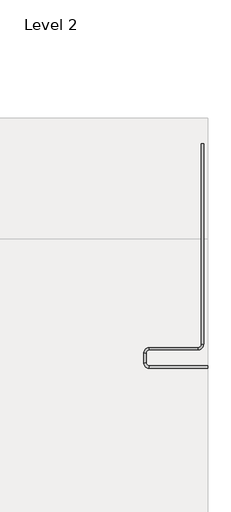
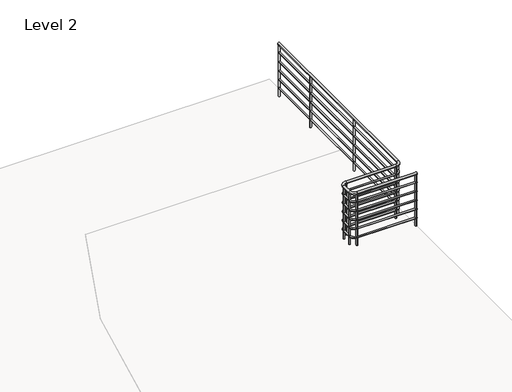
# One storey, part 5 of 14: 1 railing.
"""IFC4 building model written with IfcOpenShell, lengths in millimetres."""

from ifc_helpers import new_model, si_unit, point, frame, frame_2d, origin, place, context, project, spatial, circle_curve, ellipse_curve, trimmed, segment, composite_curve, outline, extrude, element, save
from ifc_brep_helpers import plane_surface, cylinder_surface, revolved_surface, advanced_brep

model = new_model("IFC4")

# Units and contexts
model_context = context("Model", 3, world=origin())
ifc_project = project(units=[si_unit("LENGTHUNIT", "METRE", prefix="MILLI")], contexts=[model_context])

# Site, building, storey
site = spatial("IfcSite", under=ifc_project)
building = spatial("IfcBuilding", under=site)
storey = spatial("IfcBuildingStorey", under=building, Name="Level 2", Elevation=3657.6)

# Railing
placement = place(None, origin())
element("IfcRailing", 1, ObjectType="Handrail - Pipe", at=placement, inside=storey, context=model_context, shape_type="SolidModel", body=[
    advanced_brep(
    [(18023.4049721, 512.0273319, 4552.95), (18023.4049721, 473.9273319, 4552.95), (17058.2049721, 512.0273319, 4552.95), (17058.2049721, 473.9273319, 4552.95), (16962.9549721, 569.1773319, 4552.95), (17001.0549721, 569.1773319, 4552.95), (17001.0549721, 721.5773319, 4552.95), (16962.9549721, 721.5773319, 4552.95), (17058.2049721, 816.8273319, 4552.95), (17058.2049721, 778.7273319, 4552.95), (17861.7339721, 778.7273319, 4552.95), (17861.7339721, 816.8273319, 4552.95), (17956.9839721, 4202.9648319, 4552.95), (17918.8839721, 4202.9648319, 4552.95), (17918.8839721, 873.9773319, 4552.95), (17956.9839721, 873.9773319, 4552.95)],
    [
        (0, 1, circle_curve(frame((18023.4049721, 492.9773319, 4552.95), z_axis=(1.0, 0.0, 0.0), x_axis=(0.0, -1.0, 0.0)), 19.05)),
        (1, 0, circle_curve(frame((18023.4049721, 492.9773319, 4552.95), z_axis=(1.0, 0.0, 0.0), x_axis=(0.0, -1.0, 0.0)), 19.05)),
        (0, 2),
        (2, 3, circle_curve(frame((17058.2049721, 492.9773319, 4552.95), z_axis=(1.0, 0.0, 0.0), x_axis=(0.0, -1.0, 0.0)), 19.05)),
        (3, 1),
        (3, 2, circle_curve(frame((17058.2049721, 492.9773319, 4552.95), z_axis=(1.0, 0.0, 0.0), x_axis=(0.0, -1.0, 0.0)), 19.05)),
        (4, 5, circle_curve(frame((16982.0049721, 569.1773319, 4552.95), z_axis=(0.0, 1.0, 0.0), x_axis=(-1.0, 0.0, 0.0)), 19.05)),
        (5, 6),
        (6, 7, circle_curve(frame((16982.0049721, 721.5773319, 4552.95), z_axis=(0.0, -1.0, 0.0), x_axis=(-1.0, 0.0, 0.0)), 19.05)),
        (7, 4),
        (5, 4, circle_curve(frame((16982.0049721, 569.1773319, 4552.95), z_axis=(0.0, 1.0, 0.0), x_axis=(-1.0, 0.0, 0.0)), 19.05)),
        (7, 6, circle_curve(frame((16982.0049721, 721.5773319, 4552.95), z_axis=(0.0, -1.0, 0.0), x_axis=(-1.0, 0.0, 0.0)), 19.05)),
        (8, 9, circle_curve(frame((17058.2049721, 797.7773319, 4552.95), z_axis=(1.0, 0.0, 0.0), x_axis=(0.0, 1.0, 0.0)), 19.05)),
        (9, 10),
        (10, 11, circle_curve(frame((17861.7339721, 797.7773319, 4552.95), z_axis=(-1.0, 0.0, 0.0), x_axis=(0.0, 1.0, 0.0)), 19.05)),
        (11, 8),
        (9, 8, circle_curve(frame((17058.2049721, 797.7773319, 4552.95), z_axis=(1.0, 0.0, 0.0), x_axis=(0.0, 1.0, 0.0)), 19.05)),
        (11, 10, circle_curve(frame((17861.7339721, 797.7773319, 4552.95), z_axis=(-1.0, 0.0, 0.0), x_axis=(0.0, 1.0, 0.0)), 19.05)),
        (12, 13, circle_curve(frame((17937.9339721, 4202.9648319, 4552.95), z_axis=(0.0, 1.0, 0.0), x_axis=(-1.0, 0.0, 0.0)), 19.05)),
        (13, 12, circle_curve(frame((17937.9339721, 4202.9648319, 4552.95), z_axis=(0.0, 1.0, 0.0), x_axis=(-1.0, 0.0, 0.0)), 19.05)),
        (14, 15, circle_curve(frame((17937.9339721, 873.9773319, 4552.95), z_axis=(0.0, 1.0, 0.0), x_axis=(-1.0, 0.0, 0.0)), 19.05)),
        (15, 12),
        (13, 14),
        (15, 14, circle_curve(frame((17937.9339721, 873.9773319, 4552.95), z_axis=(0.0, 1.0, 0.0), x_axis=(-1.0, 0.0, 0.0)), 19.05)),
        (4, 3, circle_curve(frame((17058.2049721, 569.1773319, 4552.95), z_axis=(0.0, 0.0, 1.0), x_axis=(0.0, -1.0, 0.0)), 95.25)),
        (2, 5, circle_curve(frame((17058.2049721, 569.1773319, 4552.95), z_axis=(0.0, 0.0, -1.0), x_axis=(0.0, -1.0, 0.0)), 57.15)),
        (8, 7, circle_curve(frame((17058.2049721, 721.5773319, 4552.95), z_axis=(0.0, 0.0, 1.0), x_axis=(-1.0, 0.0, 0.0)), 95.25)),
        (6, 9, circle_curve(frame((17058.2049721, 721.5773319, 4552.95), z_axis=(0.0, 0.0, -1.0), x_axis=(-1.0, 0.0, 0.0)), 57.15)),
        (14, 11, circle_curve(frame((17861.7339721, 873.9773319, 4552.95), z_axis=(0.0, 0.0, -1.0), x_axis=(0.0, -1.0, 0.0)), 57.15)),
        (10, 15, circle_curve(frame((17861.7339721, 873.9773319, 4552.95), z_axis=(0.0, 0.0, 1.0), x_axis=(0.0, -1.0, 0.0)), 95.25)),
    ],
    [
        plane_surface(frame((18023.4049721, 492.9773319, 4572.0), z_axis=(1.0, 0.0, 0.0), x_axis=(0.0, -1.0, 0.0))),
        cylinder_surface(frame((18023.4049721, 492.9773319, 4552.95), z_axis=(1.0, 0.0, 0.0), x_axis=(0.0, -1.0, 0.0)), 19.05),
        cylinder_surface(frame((16982.0049721, 569.1773319, 4552.95), z_axis=(0.0, -1.0, 0.0), x_axis=(-1.0, 0.0, 0.0)), 19.05),
        cylinder_surface(frame((17058.2049721, 797.7773319, 4552.95), z_axis=(-1.0, 0.0, 0.0), x_axis=(0.0, 1.0, 0.0)), 19.05),
        plane_surface(frame((17937.9339721, 4202.9648319, 4572.0), z_axis=(0.0, 1.0, 0.0), x_axis=(0.0, 0.0, 1.0))),
        cylinder_surface(frame((17937.9339721, 873.9773319, 4552.95), z_axis=(0.0, -1.0, 0.0), x_axis=(-1.0, 0.0, 0.0)), 19.05),
        revolved_surface(trimmed(ellipse_curve(frame((17058.2049721, 492.9773319, 4552.95), z_axis=(1.0, 0.0, 0.0), x_axis=(0.0, -1.0, 0.0)), 19.05, 19.05), [point((17058.2049721, 512.0273319, 4552.95))], [point((17058.2049721, 473.9273319, 4552.95))], True, "CARTESIAN"), (17058.2049721, 569.1773319, 4572.0), (0.0, 0.0, -1.0)),
        revolved_surface(trimmed(ellipse_curve(frame((17058.2049721, 492.9773319, 4552.95), z_axis=(1.0, 0.0, 0.0), x_axis=(0.0, -1.0, 0.0)), 19.05, 19.05), [point((17058.2049721, 473.9273319, 4552.95))], [point((17058.2049721, 512.0273319, 4552.95))], True, "CARTESIAN"), (17058.2049721, 569.1773319, 4572.0), (0.0, 0.0, -1.0)),
        revolved_surface(trimmed(ellipse_curve(frame((16982.0049721, 721.5773319, 4552.95), z_axis=(0.0, -1.0, 0.0), x_axis=(-1.0, 0.0, 0.0)), 19.05, 19.05), [point((17001.0549721, 721.5773319, 4552.95))], [point((16962.9549721, 721.5773319, 4552.95))], True, "CARTESIAN"), (17058.2049721, 721.5773319, 4572.0), (0.0, 0.0, -1.0)),
        revolved_surface(trimmed(ellipse_curve(frame((16982.0049721, 721.5773319, 4552.95), z_axis=(0.0, -1.0, 0.0), x_axis=(-1.0, 0.0, 0.0)), 19.05, 19.05), [point((16962.9549721, 721.5773319, 4552.95))], [point((17001.0549721, 721.5773319, 4552.95))], True, "CARTESIAN"), (17058.2049721, 721.5773319, 4572.0), (0.0, 0.0, -1.0)),
        revolved_surface(trimmed(ellipse_curve(frame((17861.7339721, 797.7773319, 4552.95), z_axis=(-1.0, 0.0, 0.0), x_axis=(0.0, 1.0, 0.0)), 19.05, 19.05), [point((17861.7339721, 778.7273319, 4552.95))], [point((17861.7339721, 816.8273319, 4552.95))], True, "CARTESIAN"), (17861.7339721, 873.9773319, 4572.0), (0.0, 0.0, 1.0)),
        revolved_surface(trimmed(ellipse_curve(frame((17861.7339721, 797.7773319, 4552.95), z_axis=(-1.0, 0.0, 0.0), x_axis=(0.0, 1.0, 0.0)), 19.05, 19.05), [point((17861.7339721, 816.8273319, 4552.95))], [point((17861.7339721, 778.7273319, 4552.95))], True, "CARTESIAN"), (17861.7339721, 873.9773319, 4572.0), (0.0, 0.0, 1.0)),
    ],
    [
        (0, [[1, 2]]),
        (1, [[-1, 3, 4, 5]]),
        (1, [[-2, -5, 6, -3]]),
        (2, [[7, 8, 9, 10]]),
        (2, [[11, -10, 12, -8]]),
        (3, [[13, 14, 15, 16]]),
        (3, [[17, -16, 18, -14]]),
        (4, [[19, 20]]),
        (5, [[21, 22, -20, 23]]),
        (5, [[24, -23, -19, -22]]),
        (6, [[25, -4, 26, -7]]),
        (7, [[-26, -6, -25, -11]]),
        (8, [[27, -9, 28, -13]]),
        (9, [[-28, -12, -27, -17]]),
        (10, [[29, -15, 30, -21]]),
        (11, [[-30, -18, -29, -24]]),
    ],
),
    advanced_brep(
    [(18023.4049721, 505.6773319, 4406.9), (18023.4049721, 480.2773319, 4406.9), (17058.2049721, 480.2773319, 4406.9), (17058.2049721, 505.6773319, 4406.9), (16994.7049721, 569.1773319, 4406.9), (16969.3049721, 569.1773319, 4406.9), (16969.3049721, 721.5773319, 4406.9), (16994.7049721, 721.5773319, 4406.9), (17058.2049721, 785.0773319, 4406.9), (17058.2049721, 810.4773319, 4406.9), (17861.7339721, 810.4773319, 4406.9), (17861.7339721, 785.0773319, 4406.9), (17950.6339721, 4202.9648319, 4406.9), (17925.2339721, 4202.9648319, 4406.9), (17950.6339721, 873.9773319, 4406.9), (17925.2339721, 873.9773319, 4406.9)],
    [
        (0, 1, circle_curve(frame((18023.4049721, 492.9773319, 4406.9), z_axis=(1.0, 0.0, 0.0), x_axis=(0.0, -1.0, 0.0)), 12.7)),
        (1, 0, circle_curve(frame((18023.4049721, 492.9773319, 4406.9), z_axis=(1.0, 0.0, 0.0), x_axis=(0.0, -1.0, 0.0)), 12.7)),
        (1, 2),
        (2, 3, circle_curve(frame((17058.2049721, 492.9773319, 4406.9), z_axis=(1.0, 0.0, 0.0), x_axis=(0.0, -1.0, 0.0)), 12.7)),
        (3, 0),
        (3, 2, circle_curve(frame((17058.2049721, 492.9773319, 4406.9), z_axis=(1.0, 0.0, 0.0), x_axis=(0.0, -1.0, 0.0)), 12.7)),
        (4, 5, circle_curve(frame((16982.0049721, 569.1773319, 4406.9), z_axis=(0.0, 1.0, 0.0), x_axis=(-1.0, 0.0, 0.0)), 12.7)),
        (5, 6),
        (6, 7, circle_curve(frame((16982.0049721, 721.5773319, 4406.9), z_axis=(0.0, -1.0, 0.0), x_axis=(-1.0, 0.0, 0.0)), 12.7)),
        (7, 4),
        (5, 4, circle_curve(frame((16982.0049721, 569.1773319, 4406.9), z_axis=(0.0, 1.0, 0.0), x_axis=(-1.0, 0.0, 0.0)), 12.7)),
        (7, 6, circle_curve(frame((16982.0049721, 721.5773319, 4406.9), z_axis=(0.0, -1.0, 0.0), x_axis=(-1.0, 0.0, 0.0)), 12.7)),
        (8, 9, circle_curve(frame((17058.2049721, 797.7773319, 4406.9), z_axis=(1.0, 0.0, 0.0), x_axis=(0.0, 1.0, 0.0)), 12.7)),
        (9, 10),
        (10, 11, circle_curve(frame((17861.7339721, 797.7773319, 4406.9), z_axis=(-1.0, 0.0, 0.0), x_axis=(0.0, 1.0, 0.0)), 12.7)),
        (11, 8),
        (9, 8, circle_curve(frame((17058.2049721, 797.7773319, 4406.9), z_axis=(1.0, 0.0, 0.0), x_axis=(0.0, 1.0, 0.0)), 12.7)),
        (11, 10, circle_curve(frame((17861.7339721, 797.7773319, 4406.9), z_axis=(-1.0, 0.0, 0.0), x_axis=(0.0, 1.0, 0.0)), 12.7)),
        (12, 13, circle_curve(frame((17937.9339721, 4202.9648319, 4406.9), z_axis=(0.0, 1.0, 0.0), x_axis=(-1.0, 0.0, 0.0)), 12.7)),
        (13, 12, circle_curve(frame((17937.9339721, 4202.9648319, 4406.9), z_axis=(0.0, 1.0, 0.0), x_axis=(-1.0, 0.0, 0.0)), 12.7)),
        (14, 15, circle_curve(frame((17937.9339721, 873.9773319, 4406.9), z_axis=(0.0, 1.0, 0.0), x_axis=(-1.0, 0.0, 0.0)), 12.7)),
        (15, 13),
        (12, 14),
        (15, 14, circle_curve(frame((17937.9339721, 873.9773319, 4406.9), z_axis=(0.0, 1.0, 0.0), x_axis=(-1.0, 0.0, 0.0)), 12.7)),
        (4, 3, circle_curve(frame((17058.2049721, 569.1773319, 4406.9), z_axis=(0.0, 0.0, 1.0), x_axis=(0.0, -1.0, 0.0)), 63.5)),
        (2, 5, circle_curve(frame((17058.2049721, 569.1773319, 4406.9), z_axis=(0.0, 0.0, -1.0), x_axis=(0.0, -1.0, 0.0)), 88.9)),
        (8, 7, circle_curve(frame((17058.2049721, 721.5773319, 4406.9), z_axis=(0.0, 0.0, 1.0), x_axis=(-1.0, 0.0, 0.0)), 63.5)),
        (6, 9, circle_curve(frame((17058.2049721, 721.5773319, 4406.9), z_axis=(0.0, 0.0, -1.0), x_axis=(-1.0, 0.0, 0.0)), 88.9)),
        (14, 11, circle_curve(frame((17861.7339721, 873.9773319, 4406.9), z_axis=(0.0, 0.0, -1.0), x_axis=(0.0, -1.0, 0.0)), 88.9)),
        (10, 15, circle_curve(frame((17861.7339721, 873.9773319, 4406.9), z_axis=(0.0, 0.0, 1.0), x_axis=(0.0, -1.0, 0.0)), 63.5)),
    ],
    [
        plane_surface(frame((18023.4049721, 492.9773319, 4419.6), z_axis=(1.0, 0.0, 0.0), x_axis=(0.0, -1.0, 0.0))),
        cylinder_surface(frame((18023.4049721, 492.9773319, 4406.9), z_axis=(1.0, 0.0, 0.0), x_axis=(0.0, -1.0, 0.0)), 12.7),
        cylinder_surface(frame((16982.0049721, 569.1773319, 4406.9), z_axis=(0.0, -1.0, 0.0), x_axis=(-1.0, 0.0, 0.0)), 12.7),
        cylinder_surface(frame((17058.2049721, 797.7773319, 4406.9), z_axis=(-1.0, 0.0, 0.0), x_axis=(0.0, 1.0, 0.0)), 12.7),
        plane_surface(frame((17937.9339721, 4202.9648319, 4419.6), z_axis=(0.0, 1.0, 0.0), x_axis=(0.0, 0.0, 1.0))),
        cylinder_surface(frame((17937.9339721, 873.9773319, 4406.9), z_axis=(0.0, -1.0, 0.0), x_axis=(-1.0, 0.0, 0.0)), 12.7),
        revolved_surface(trimmed(ellipse_curve(frame((17058.2049721, 492.9773319, 4406.9), z_axis=(1.0, 0.0, 0.0), x_axis=(0.0, -1.0, 0.0)), 12.7, 12.7), [point((17058.2049721, 480.2773319, 4406.9))], [point((17058.2049721, 505.6773319, 4406.9))], True, "CARTESIAN"), (17058.2049721, 569.1773319, 4419.6), (0.0, 0.0, -1.0)),
        revolved_surface(trimmed(ellipse_curve(frame((17058.2049721, 492.9773319, 4406.9), z_axis=(1.0, 0.0, 0.0), x_axis=(0.0, -1.0, 0.0)), 12.7, 12.7), [point((17058.2049721, 505.6773319, 4406.9))], [point((17058.2049721, 480.2773319, 4406.9))], True, "CARTESIAN"), (17058.2049721, 569.1773319, 4419.6), (0.0, 0.0, -1.0)),
        revolved_surface(trimmed(ellipse_curve(frame((16982.0049721, 721.5773319, 4406.9), z_axis=(0.0, -1.0, 0.0), x_axis=(-1.0, 0.0, 0.0)), 12.7, 12.7), [point((16969.3049721, 721.5773319, 4406.9))], [point((16994.7049721, 721.5773319, 4406.9))], True, "CARTESIAN"), (17058.2049721, 721.5773319, 4419.6), (0.0, 0.0, -1.0)),
        revolved_surface(trimmed(ellipse_curve(frame((16982.0049721, 721.5773319, 4406.9), z_axis=(0.0, -1.0, 0.0), x_axis=(-1.0, 0.0, 0.0)), 12.7, 12.7), [point((16994.7049721, 721.5773319, 4406.9))], [point((16969.3049721, 721.5773319, 4406.9))], True, "CARTESIAN"), (17058.2049721, 721.5773319, 4419.6), (0.0, 0.0, -1.0)),
        revolved_surface(trimmed(ellipse_curve(frame((17861.7339721, 797.7773319, 4406.9), z_axis=(-1.0, 0.0, 0.0), x_axis=(0.0, 1.0, 0.0)), 12.7, 12.7), [point((17861.7339721, 810.4773319, 4406.9))], [point((17861.7339721, 785.0773319, 4406.9))], True, "CARTESIAN"), (17861.7339721, 873.9773319, 4419.6), (0.0, 0.0, 1.0)),
        revolved_surface(trimmed(ellipse_curve(frame((17861.7339721, 797.7773319, 4406.9), z_axis=(-1.0, 0.0, 0.0), x_axis=(0.0, 1.0, 0.0)), 12.7, 12.7), [point((17861.7339721, 785.0773319, 4406.9))], [point((17861.7339721, 810.4773319, 4406.9))], True, "CARTESIAN"), (17861.7339721, 873.9773319, 4419.6), (0.0, 0.0, 1.0)),
    ],
    [
        (0, [[1, 2]]),
        (1, [[-2, 3, 4, 5]]),
        (1, [[-1, -5, 6, -3]]),
        (2, [[7, 8, 9, 10]]),
        (2, [[11, -10, 12, -8]]),
        (3, [[13, 14, 15, 16]]),
        (3, [[17, -16, 18, -14]]),
        (4, [[19, 20]]),
        (5, [[21, 22, -19, 23]]),
        (5, [[24, -23, -20, -22]]),
        (6, [[25, -4, 26, -7]]),
        (7, [[-26, -6, -25, -11]]),
        (8, [[27, -9, 28, -13]]),
        (9, [[-28, -12, -27, -17]]),
        (10, [[29, -15, 30, -21]]),
        (11, [[-30, -18, -29, -24]]),
    ],
),
    advanced_brep(
    [(18023.4049721, 505.6773319, 4254.5), (18023.4049721, 480.2773319, 4254.5), (17058.2049721, 480.2773319, 4254.5), (17058.2049721, 505.6773319, 4254.5), (16994.7049721, 569.1773319, 4254.5), (16969.3049721, 569.1773319, 4254.5), (16969.3049721, 721.5773319, 4254.5), (16994.7049721, 721.5773319, 4254.5), (17058.2049721, 785.0773319, 4254.5), (17058.2049721, 810.4773319, 4254.5), (17861.7339721, 810.4773319, 4254.5), (17861.7339721, 785.0773319, 4254.5), (17950.6339721, 4202.9648319, 4254.5), (17925.2339721, 4202.9648319, 4254.5), (17950.6339721, 873.9773319, 4254.5), (17925.2339721, 873.9773319, 4254.5)],
    [
        (0, 1, circle_curve(frame((18023.4049721, 492.9773319, 4254.5), z_axis=(1.0, 0.0, 0.0), x_axis=(0.0, -1.0, 0.0)), 12.7)),
        (1, 0, circle_curve(frame((18023.4049721, 492.9773319, 4254.5), z_axis=(1.0, 0.0, 0.0), x_axis=(0.0, -1.0, 0.0)), 12.7)),
        (1, 2),
        (2, 3, circle_curve(frame((17058.2049721, 492.9773319, 4254.5), z_axis=(1.0, 0.0, 0.0), x_axis=(0.0, -1.0, 0.0)), 12.7)),
        (3, 0),
        (3, 2, circle_curve(frame((17058.2049721, 492.9773319, 4254.5), z_axis=(1.0, 0.0, 0.0), x_axis=(0.0, -1.0, 0.0)), 12.7)),
        (4, 5, circle_curve(frame((16982.0049721, 569.1773319, 4254.5), z_axis=(0.0, 1.0, 0.0), x_axis=(-1.0, 0.0, 0.0)), 12.7)),
        (5, 6),
        (6, 7, circle_curve(frame((16982.0049721, 721.5773319, 4254.5), z_axis=(0.0, -1.0, 0.0), x_axis=(-1.0, 0.0, 0.0)), 12.7)),
        (7, 4),
        (5, 4, circle_curve(frame((16982.0049721, 569.1773319, 4254.5), z_axis=(0.0, 1.0, 0.0), x_axis=(-1.0, 0.0, 0.0)), 12.7)),
        (7, 6, circle_curve(frame((16982.0049721, 721.5773319, 4254.5), z_axis=(0.0, -1.0, 0.0), x_axis=(-1.0, 0.0, 0.0)), 12.7)),
        (8, 9, circle_curve(frame((17058.2049721, 797.7773319, 4254.5), z_axis=(1.0, 0.0, 0.0), x_axis=(0.0, 1.0, 0.0)), 12.7)),
        (9, 10),
        (10, 11, circle_curve(frame((17861.7339721, 797.7773319, 4254.5), z_axis=(-1.0, 0.0, 0.0), x_axis=(0.0, 1.0, 0.0)), 12.7)),
        (11, 8),
        (9, 8, circle_curve(frame((17058.2049721, 797.7773319, 4254.5), z_axis=(1.0, 0.0, 0.0), x_axis=(0.0, 1.0, 0.0)), 12.7)),
        (11, 10, circle_curve(frame((17861.7339721, 797.7773319, 4254.5), z_axis=(-1.0, 0.0, 0.0), x_axis=(0.0, 1.0, 0.0)), 12.7)),
        (12, 13, circle_curve(frame((17937.9339721, 4202.9648319, 4254.5), z_axis=(0.0, 1.0, 0.0), x_axis=(-1.0, 0.0, 0.0)), 12.7)),
        (13, 12, circle_curve(frame((17937.9339721, 4202.9648319, 4254.5), z_axis=(0.0, 1.0, 0.0), x_axis=(-1.0, 0.0, 0.0)), 12.7)),
        (14, 15, circle_curve(frame((17937.9339721, 873.9773319, 4254.5), z_axis=(0.0, 1.0, 0.0), x_axis=(-1.0, 0.0, 0.0)), 12.7)),
        (15, 13),
        (12, 14),
        (15, 14, circle_curve(frame((17937.9339721, 873.9773319, 4254.5), z_axis=(0.0, 1.0, 0.0), x_axis=(-1.0, 0.0, 0.0)), 12.7)),
        (4, 3, circle_curve(frame((17058.2049721, 569.1773319, 4254.5), z_axis=(0.0, 0.0, 1.0), x_axis=(0.0, -1.0, 0.0)), 63.5)),
        (2, 5, circle_curve(frame((17058.2049721, 569.1773319, 4254.5), z_axis=(0.0, 0.0, -1.0), x_axis=(0.0, -1.0, 0.0)), 88.9)),
        (8, 7, circle_curve(frame((17058.2049721, 721.5773319, 4254.5), z_axis=(0.0, 0.0, 1.0), x_axis=(-1.0, 0.0, 0.0)), 63.5)),
        (6, 9, circle_curve(frame((17058.2049721, 721.5773319, 4254.5), z_axis=(0.0, 0.0, -1.0), x_axis=(-1.0, 0.0, 0.0)), 88.9)),
        (14, 11, circle_curve(frame((17861.7339721, 873.9773319, 4254.5), z_axis=(0.0, 0.0, -1.0), x_axis=(0.0, -1.0, 0.0)), 88.9)),
        (10, 15, circle_curve(frame((17861.7339721, 873.9773319, 4254.5), z_axis=(0.0, 0.0, 1.0), x_axis=(0.0, -1.0, 0.0)), 63.5)),
    ],
    [
        plane_surface(frame((18023.4049721, 492.9773319, 4267.2), z_axis=(1.0, 0.0, 0.0), x_axis=(0.0, -1.0, 0.0))),
        cylinder_surface(frame((18023.4049721, 492.9773319, 4254.5), z_axis=(1.0, 0.0, 0.0), x_axis=(0.0, -1.0, 0.0)), 12.7),
        cylinder_surface(frame((16982.0049721, 569.1773319, 4254.5), z_axis=(0.0, -1.0, 0.0), x_axis=(-1.0, 0.0, 0.0)), 12.7),
        cylinder_surface(frame((17058.2049721, 797.7773319, 4254.5), z_axis=(-1.0, 0.0, 0.0), x_axis=(0.0, 1.0, 0.0)), 12.7),
        plane_surface(frame((17937.9339721, 4202.9648319, 4267.2), z_axis=(0.0, 1.0, 0.0), x_axis=(0.0, 0.0, 1.0))),
        cylinder_surface(frame((17937.9339721, 873.9773319, 4254.5), z_axis=(0.0, -1.0, 0.0), x_axis=(-1.0, 0.0, 0.0)), 12.7),
        revolved_surface(trimmed(ellipse_curve(frame((17058.2049721, 492.9773319, 4254.5), z_axis=(1.0, 0.0, 0.0), x_axis=(0.0, -1.0, 0.0)), 12.7, 12.7), [point((17058.2049721, 480.2773319, 4254.5))], [point((17058.2049721, 505.6773319, 4254.5))], True, "CARTESIAN"), (17058.2049721, 569.1773319, 4267.2), (0.0, 0.0, -1.0)),
        revolved_surface(trimmed(ellipse_curve(frame((17058.2049721, 492.9773319, 4254.5), z_axis=(1.0, 0.0, 0.0), x_axis=(0.0, -1.0, 0.0)), 12.7, 12.7), [point((17058.2049721, 505.6773319, 4254.5))], [point((17058.2049721, 480.2773319, 4254.5))], True, "CARTESIAN"), (17058.2049721, 569.1773319, 4267.2), (0.0, 0.0, -1.0)),
        revolved_surface(trimmed(ellipse_curve(frame((16982.0049721, 721.5773319, 4254.5), z_axis=(0.0, -1.0, 0.0), x_axis=(-1.0, 0.0, 0.0)), 12.7, 12.7), [point((16969.3049721, 721.5773319, 4254.5))], [point((16994.7049721, 721.5773319, 4254.5))], True, "CARTESIAN"), (17058.2049721, 721.5773319, 4267.2), (0.0, 0.0, -1.0)),
        revolved_surface(trimmed(ellipse_curve(frame((16982.0049721, 721.5773319, 4254.5), z_axis=(0.0, -1.0, 0.0), x_axis=(-1.0, 0.0, 0.0)), 12.7, 12.7), [point((16994.7049721, 721.5773319, 4254.5))], [point((16969.3049721, 721.5773319, 4254.5))], True, "CARTESIAN"), (17058.2049721, 721.5773319, 4267.2), (0.0, 0.0, -1.0)),
        revolved_surface(trimmed(ellipse_curve(frame((17861.7339721, 797.7773319, 4254.5), z_axis=(-1.0, 0.0, 0.0), x_axis=(0.0, 1.0, 0.0)), 12.7, 12.7), [point((17861.7339721, 810.4773319, 4254.5))], [point((17861.7339721, 785.0773319, 4254.5))], True, "CARTESIAN"), (17861.7339721, 873.9773319, 4267.2), (0.0, 0.0, 1.0)),
        revolved_surface(trimmed(ellipse_curve(frame((17861.7339721, 797.7773319, 4254.5), z_axis=(-1.0, 0.0, 0.0), x_axis=(0.0, 1.0, 0.0)), 12.7, 12.7), [point((17861.7339721, 785.0773319, 4254.5))], [point((17861.7339721, 810.4773319, 4254.5))], True, "CARTESIAN"), (17861.7339721, 873.9773319, 4267.2), (0.0, 0.0, 1.0)),
    ],
    [
        (0, [[1, 2]]),
        (1, [[-2, 3, 4, 5]]),
        (1, [[-1, -5, 6, -3]]),
        (2, [[7, 8, 9, 10]]),
        (2, [[11, -10, 12, -8]]),
        (3, [[13, 14, 15, 16]]),
        (3, [[17, -16, 18, -14]]),
        (4, [[19, 20]]),
        (5, [[21, 22, -19, 23]]),
        (5, [[24, -23, -20, -22]]),
        (6, [[25, -4, 26, -7]]),
        (7, [[-26, -6, -25, -11]]),
        (8, [[27, -9, 28, -13]]),
        (9, [[-28, -12, -27, -17]]),
        (10, [[29, -15, 30, -21]]),
        (11, [[-30, -18, -29, -24]]),
    ],
),
    advanced_brep(
    [(18023.4049721, 505.6773319, 4102.1), (18023.4049721, 480.2773319, 4102.1), (17058.2049721, 480.2773319, 4102.1), (17058.2049721, 505.6773319, 4102.1), (16994.7049721, 569.1773319, 4102.1), (16969.3049721, 569.1773319, 4102.1), (16969.3049721, 721.5773319, 4102.1), (16994.7049721, 721.5773319, 4102.1), (17058.2049721, 785.0773319, 4102.1), (17058.2049721, 810.4773319, 4102.1), (17861.7339721, 810.4773319, 4102.1), (17861.7339721, 785.0773319, 4102.1), (17950.6339721, 4202.9648319, 4102.1), (17925.2339721, 4202.9648319, 4102.1), (17950.6339721, 873.9773319, 4102.1), (17925.2339721, 873.9773319, 4102.1)],
    [
        (0, 1, circle_curve(frame((18023.4049721, 492.9773319, 4102.1), z_axis=(1.0, 0.0, 0.0), x_axis=(0.0, -1.0, 0.0)), 12.7)),
        (1, 0, circle_curve(frame((18023.4049721, 492.9773319, 4102.1), z_axis=(1.0, 0.0, 0.0), x_axis=(0.0, -1.0, 0.0)), 12.7)),
        (1, 2),
        (2, 3, circle_curve(frame((17058.2049721, 492.9773319, 4102.1), z_axis=(1.0, 0.0, 0.0), x_axis=(0.0, -1.0, 0.0)), 12.7)),
        (3, 0),
        (3, 2, circle_curve(frame((17058.2049721, 492.9773319, 4102.1), z_axis=(1.0, 0.0, 0.0), x_axis=(0.0, -1.0, 0.0)), 12.7)),
        (4, 5, circle_curve(frame((16982.0049721, 569.1773319, 4102.1), z_axis=(0.0, 1.0, 0.0), x_axis=(-1.0, 0.0, 0.0)), 12.7)),
        (5, 6),
        (6, 7, circle_curve(frame((16982.0049721, 721.5773319, 4102.1), z_axis=(0.0, -1.0, 0.0), x_axis=(-1.0, 0.0, 0.0)), 12.7)),
        (7, 4),
        (5, 4, circle_curve(frame((16982.0049721, 569.1773319, 4102.1), z_axis=(0.0, 1.0, 0.0), x_axis=(-1.0, 0.0, 0.0)), 12.7)),
        (7, 6, circle_curve(frame((16982.0049721, 721.5773319, 4102.1), z_axis=(0.0, -1.0, 0.0), x_axis=(-1.0, 0.0, 0.0)), 12.7)),
        (8, 9, circle_curve(frame((17058.2049721, 797.7773319, 4102.1), z_axis=(1.0, 0.0, 0.0), x_axis=(0.0, 1.0, 0.0)), 12.7)),
        (9, 10),
        (10, 11, circle_curve(frame((17861.7339721, 797.7773319, 4102.1), z_axis=(-1.0, 0.0, 0.0), x_axis=(0.0, 1.0, 0.0)), 12.7)),
        (11, 8),
        (9, 8, circle_curve(frame((17058.2049721, 797.7773319, 4102.1), z_axis=(1.0, 0.0, 0.0), x_axis=(0.0, 1.0, 0.0)), 12.7)),
        (11, 10, circle_curve(frame((17861.7339721, 797.7773319, 4102.1), z_axis=(-1.0, 0.0, 0.0), x_axis=(0.0, 1.0, 0.0)), 12.7)),
        (12, 13, circle_curve(frame((17937.9339721, 4202.9648319, 4102.1), z_axis=(0.0, 1.0, 0.0), x_axis=(-1.0, 0.0, 0.0)), 12.7)),
        (13, 12, circle_curve(frame((17937.9339721, 4202.9648319, 4102.1), z_axis=(0.0, 1.0, 0.0), x_axis=(-1.0, 0.0, 0.0)), 12.7)),
        (14, 15, circle_curve(frame((17937.9339721, 873.9773319, 4102.1), z_axis=(0.0, 1.0, 0.0), x_axis=(-1.0, 0.0, 0.0)), 12.7)),
        (15, 13),
        (12, 14),
        (15, 14, circle_curve(frame((17937.9339721, 873.9773319, 4102.1), z_axis=(0.0, 1.0, 0.0), x_axis=(-1.0, 0.0, 0.0)), 12.7)),
        (4, 3, circle_curve(frame((17058.2049721, 569.1773319, 4102.1), z_axis=(0.0, 0.0, 1.0), x_axis=(0.0, -1.0, 0.0)), 63.5)),
        (2, 5, circle_curve(frame((17058.2049721, 569.1773319, 4102.1), z_axis=(0.0, 0.0, -1.0), x_axis=(0.0, -1.0, 0.0)), 88.9)),
        (8, 7, circle_curve(frame((17058.2049721, 721.5773319, 4102.1), z_axis=(0.0, 0.0, 1.0), x_axis=(-1.0, 0.0, 0.0)), 63.5)),
        (6, 9, circle_curve(frame((17058.2049721, 721.5773319, 4102.1), z_axis=(0.0, 0.0, -1.0), x_axis=(-1.0, 0.0, 0.0)), 88.9)),
        (14, 11, circle_curve(frame((17861.7339721, 873.9773319, 4102.1), z_axis=(0.0, 0.0, -1.0), x_axis=(0.0, -1.0, 0.0)), 88.9)),
        (10, 15, circle_curve(frame((17861.7339721, 873.9773319, 4102.1), z_axis=(0.0, 0.0, 1.0), x_axis=(0.0, -1.0, 0.0)), 63.5)),
    ],
    [
        plane_surface(frame((18023.4049721, 492.9773319, 4114.8), z_axis=(1.0, 0.0, 0.0), x_axis=(0.0, -1.0, 0.0))),
        cylinder_surface(frame((18023.4049721, 492.9773319, 4102.1), z_axis=(1.0, 0.0, 0.0), x_axis=(0.0, -1.0, 0.0)), 12.7),
        cylinder_surface(frame((16982.0049721, 569.1773319, 4102.1), z_axis=(0.0, -1.0, 0.0), x_axis=(-1.0, 0.0, 0.0)), 12.7),
        cylinder_surface(frame((17058.2049721, 797.7773319, 4102.1), z_axis=(-1.0, 0.0, 0.0), x_axis=(0.0, 1.0, 0.0)), 12.7),
        plane_surface(frame((17937.9339721, 4202.9648319, 4114.8), z_axis=(0.0, 1.0, 0.0), x_axis=(0.0, 0.0, 1.0))),
        cylinder_surface(frame((17937.9339721, 873.9773319, 4102.1), z_axis=(0.0, -1.0, 0.0), x_axis=(-1.0, 0.0, 0.0)), 12.7),
        revolved_surface(trimmed(ellipse_curve(frame((17058.2049721, 492.9773319, 4102.1), z_axis=(1.0, 0.0, 0.0), x_axis=(0.0, -1.0, 0.0)), 12.7, 12.7), [point((17058.2049721, 480.2773319, 4102.1))], [point((17058.2049721, 505.6773319, 4102.1))], True, "CARTESIAN"), (17058.2049721, 569.1773319, 4114.8), (0.0, 0.0, -1.0)),
        revolved_surface(trimmed(ellipse_curve(frame((17058.2049721, 492.9773319, 4102.1), z_axis=(1.0, 0.0, 0.0), x_axis=(0.0, -1.0, 0.0)), 12.7, 12.7), [point((17058.2049721, 505.6773319, 4102.1))], [point((17058.2049721, 480.2773319, 4102.1))], True, "CARTESIAN"), (17058.2049721, 569.1773319, 4114.8), (0.0, 0.0, -1.0)),
        revolved_surface(trimmed(ellipse_curve(frame((16982.0049721, 721.5773319, 4102.1), z_axis=(0.0, -1.0, 0.0), x_axis=(-1.0, 0.0, 0.0)), 12.7, 12.7), [point((16969.3049721, 721.5773319, 4102.1))], [point((16994.7049721, 721.5773319, 4102.1))], True, "CARTESIAN"), (17058.2049721, 721.5773319, 4114.8), (0.0, 0.0, -1.0)),
        revolved_surface(trimmed(ellipse_curve(frame((16982.0049721, 721.5773319, 4102.1), z_axis=(0.0, -1.0, 0.0), x_axis=(-1.0, 0.0, 0.0)), 12.7, 12.7), [point((16994.7049721, 721.5773319, 4102.1))], [point((16969.3049721, 721.5773319, 4102.1))], True, "CARTESIAN"), (17058.2049721, 721.5773319, 4114.8), (0.0, 0.0, -1.0)),
        revolved_surface(trimmed(ellipse_curve(frame((17861.7339721, 797.7773319, 4102.1), z_axis=(-1.0, 0.0, 0.0), x_axis=(0.0, 1.0, 0.0)), 12.7, 12.7), [point((17861.7339721, 810.4773319, 4102.1))], [point((17861.7339721, 785.0773319, 4102.1))], True, "CARTESIAN"), (17861.7339721, 873.9773319, 4114.8), (0.0, 0.0, 1.0)),
        revolved_surface(trimmed(ellipse_curve(frame((17861.7339721, 797.7773319, 4102.1), z_axis=(-1.0, 0.0, 0.0), x_axis=(0.0, 1.0, 0.0)), 12.7, 12.7), [point((17861.7339721, 785.0773319, 4102.1))], [point((17861.7339721, 810.4773319, 4102.1))], True, "CARTESIAN"), (17861.7339721, 873.9773319, 4114.8), (0.0, 0.0, 1.0)),
    ],
    [
        (0, [[1, 2]]),
        (1, [[-2, 3, 4, 5]]),
        (1, [[-1, -5, 6, -3]]),
        (2, [[7, 8, 9, 10]]),
        (2, [[11, -10, 12, -8]]),
        (3, [[13, 14, 15, 16]]),
        (3, [[17, -16, 18, -14]]),
        (4, [[19, 20]]),
        (5, [[21, 22, -19, 23]]),
        (5, [[24, -23, -20, -22]]),
        (6, [[25, -4, 26, -7]]),
        (7, [[-26, -6, -25, -11]]),
        (8, [[27, -9, 28, -13]]),
        (9, [[-28, -12, -27, -17]]),
        (10, [[29, -15, 30, -21]]),
        (11, [[-30, -18, -29, -24]]),
    ],
),
    advanced_brep(
    [(18023.4049721, 505.6773319, 3949.7), (18023.4049721, 480.2773319, 3949.7), (17058.2049721, 480.2773319, 3949.7), (17058.2049721, 505.6773319, 3949.7), (16994.7049721, 569.1773319, 3949.7), (16969.3049721, 569.1773319, 3949.7), (16969.3049721, 721.5773319, 3949.7), (16994.7049721, 721.5773319, 3949.7), (17058.2049721, 785.0773319, 3949.7), (17058.2049721, 810.4773319, 3949.7), (17861.7339721, 810.4773319, 3949.7), (17861.7339721, 785.0773319, 3949.7), (17950.6339721, 4202.9648319, 3949.7), (17925.2339721, 4202.9648319, 3949.7), (17950.6339721, 873.9773319, 3949.7), (17925.2339721, 873.9773319, 3949.7)],
    [
        (0, 1, circle_curve(frame((18023.4049721, 492.9773319, 3949.7), z_axis=(1.0, 0.0, 0.0), x_axis=(0.0, -1.0, 0.0)), 12.7)),
        (1, 0, circle_curve(frame((18023.4049721, 492.9773319, 3949.7), z_axis=(1.0, 0.0, 0.0), x_axis=(0.0, -1.0, 0.0)), 12.7)),
        (1, 2),
        (2, 3, circle_curve(frame((17058.2049721, 492.9773319, 3949.7), z_axis=(1.0, 0.0, 0.0), x_axis=(0.0, -1.0, 0.0)), 12.7)),
        (3, 0),
        (3, 2, circle_curve(frame((17058.2049721, 492.9773319, 3949.7), z_axis=(1.0, 0.0, 0.0), x_axis=(0.0, -1.0, 0.0)), 12.7)),
        (4, 5, circle_curve(frame((16982.0049721, 569.1773319, 3949.7), z_axis=(0.0, 1.0, 0.0), x_axis=(-1.0, 0.0, 0.0)), 12.7)),
        (5, 6),
        (6, 7, circle_curve(frame((16982.0049721, 721.5773319, 3949.7), z_axis=(0.0, -1.0, 0.0), x_axis=(-1.0, 0.0, 0.0)), 12.7)),
        (7, 4),
        (5, 4, circle_curve(frame((16982.0049721, 569.1773319, 3949.7), z_axis=(0.0, 1.0, 0.0), x_axis=(-1.0, 0.0, 0.0)), 12.7)),
        (7, 6, circle_curve(frame((16982.0049721, 721.5773319, 3949.7), z_axis=(0.0, -1.0, 0.0), x_axis=(-1.0, 0.0, 0.0)), 12.7)),
        (8, 9, circle_curve(frame((17058.2049721, 797.7773319, 3949.7), z_axis=(1.0, 0.0, 0.0), x_axis=(0.0, 1.0, 0.0)), 12.7)),
        (9, 10),
        (10, 11, circle_curve(frame((17861.7339721, 797.7773319, 3949.7), z_axis=(-1.0, 0.0, 0.0), x_axis=(0.0, 1.0, 0.0)), 12.7)),
        (11, 8),
        (9, 8, circle_curve(frame((17058.2049721, 797.7773319, 3949.7), z_axis=(1.0, 0.0, 0.0), x_axis=(0.0, 1.0, 0.0)), 12.7)),
        (11, 10, circle_curve(frame((17861.7339721, 797.7773319, 3949.7), z_axis=(-1.0, 0.0, 0.0), x_axis=(0.0, 1.0, 0.0)), 12.7)),
        (12, 13, circle_curve(frame((17937.9339721, 4202.9648319, 3949.7), z_axis=(0.0, 1.0, 0.0), x_axis=(-1.0, 0.0, 0.0)), 12.7)),
        (13, 12, circle_curve(frame((17937.9339721, 4202.9648319, 3949.7), z_axis=(0.0, 1.0, 0.0), x_axis=(-1.0, 0.0, 0.0)), 12.7)),
        (14, 15, circle_curve(frame((17937.9339721, 873.9773319, 3949.7), z_axis=(0.0, 1.0, 0.0), x_axis=(-1.0, 0.0, 0.0)), 12.7)),
        (15, 13),
        (12, 14),
        (15, 14, circle_curve(frame((17937.9339721, 873.9773319, 3949.7), z_axis=(0.0, 1.0, 0.0), x_axis=(-1.0, 0.0, 0.0)), 12.7)),
        (4, 3, circle_curve(frame((17058.2049721, 569.1773319, 3949.7), z_axis=(0.0, 0.0, 1.0), x_axis=(0.0, -1.0, 0.0)), 63.5)),
        (2, 5, circle_curve(frame((17058.2049721, 569.1773319, 3949.7), z_axis=(0.0, 0.0, -1.0), x_axis=(0.0, -1.0, 0.0)), 88.9)),
        (8, 7, circle_curve(frame((17058.2049721, 721.5773319, 3949.7), z_axis=(0.0, 0.0, 1.0), x_axis=(-1.0, 0.0, 0.0)), 63.5)),
        (6, 9, circle_curve(frame((17058.2049721, 721.5773319, 3949.7), z_axis=(0.0, 0.0, -1.0), x_axis=(-1.0, 0.0, 0.0)), 88.9)),
        (14, 11, circle_curve(frame((17861.7339721, 873.9773319, 3949.7), z_axis=(0.0, 0.0, -1.0), x_axis=(0.0, -1.0, 0.0)), 88.9)),
        (10, 15, circle_curve(frame((17861.7339721, 873.9773319, 3949.7), z_axis=(0.0, 0.0, 1.0), x_axis=(0.0, -1.0, 0.0)), 63.5)),
    ],
    [
        plane_surface(frame((18023.4049721, 492.9773319, 3962.4), z_axis=(1.0, 0.0, 0.0), x_axis=(0.0, -1.0, 0.0))),
        cylinder_surface(frame((18023.4049721, 492.9773319, 3949.7), z_axis=(1.0, 0.0, 0.0), x_axis=(0.0, -1.0, 0.0)), 12.7),
        cylinder_surface(frame((16982.0049721, 569.1773319, 3949.7), z_axis=(0.0, -1.0, 0.0), x_axis=(-1.0, 0.0, 0.0)), 12.7),
        cylinder_surface(frame((17058.2049721, 797.7773319, 3949.7), z_axis=(-1.0, 0.0, 0.0), x_axis=(0.0, 1.0, 0.0)), 12.7),
        plane_surface(frame((17937.9339721, 4202.9648319, 3962.4), z_axis=(0.0, 1.0, 0.0), x_axis=(0.0, 0.0, 1.0))),
        cylinder_surface(frame((17937.9339721, 873.9773319, 3949.7), z_axis=(0.0, -1.0, 0.0), x_axis=(-1.0, 0.0, 0.0)), 12.7),
        revolved_surface(trimmed(ellipse_curve(frame((17058.2049721, 492.9773319, 3949.7), z_axis=(1.0, 0.0, 0.0), x_axis=(0.0, -1.0, 0.0)), 12.7, 12.7), [point((17058.2049721, 480.2773319, 3949.7))], [point((17058.2049721, 505.6773319, 3949.7))], True, "CARTESIAN"), (17058.2049721, 569.1773319, 3962.4), (0.0, 0.0, -1.0)),
        revolved_surface(trimmed(ellipse_curve(frame((17058.2049721, 492.9773319, 3949.7), z_axis=(1.0, 0.0, 0.0), x_axis=(0.0, -1.0, 0.0)), 12.7, 12.7), [point((17058.2049721, 505.6773319, 3949.7))], [point((17058.2049721, 480.2773319, 3949.7))], True, "CARTESIAN"), (17058.2049721, 569.1773319, 3962.4), (0.0, 0.0, -1.0)),
        revolved_surface(trimmed(ellipse_curve(frame((16982.0049721, 721.5773319, 3949.7), z_axis=(0.0, -1.0, 0.0), x_axis=(-1.0, 0.0, 0.0)), 12.7, 12.7), [point((16969.3049721, 721.5773319, 3949.7))], [point((16994.7049721, 721.5773319, 3949.7))], True, "CARTESIAN"), (17058.2049721, 721.5773319, 3962.4), (0.0, 0.0, -1.0)),
        revolved_surface(trimmed(ellipse_curve(frame((16982.0049721, 721.5773319, 3949.7), z_axis=(0.0, -1.0, 0.0), x_axis=(-1.0, 0.0, 0.0)), 12.7, 12.7), [point((16994.7049721, 721.5773319, 3949.7))], [point((16969.3049721, 721.5773319, 3949.7))], True, "CARTESIAN"), (17058.2049721, 721.5773319, 3962.4), (0.0, 0.0, -1.0)),
        revolved_surface(trimmed(ellipse_curve(frame((17861.7339721, 797.7773319, 3949.7), z_axis=(-1.0, 0.0, 0.0), x_axis=(0.0, 1.0, 0.0)), 12.7, 12.7), [point((17861.7339721, 810.4773319, 3949.7))], [point((17861.7339721, 785.0773319, 3949.7))], True, "CARTESIAN"), (17861.7339721, 873.9773319, 3962.4), (0.0, 0.0, 1.0)),
        revolved_surface(trimmed(ellipse_curve(frame((17861.7339721, 797.7773319, 3949.7), z_axis=(-1.0, 0.0, 0.0), x_axis=(0.0, 1.0, 0.0)), 12.7, 12.7), [point((17861.7339721, 785.0773319, 3949.7))], [point((17861.7339721, 810.4773319, 3949.7))], True, "CARTESIAN"), (17861.7339721, 873.9773319, 3962.4), (0.0, 0.0, 1.0)),
    ],
    [
        (0, [[1, 2]]),
        (1, [[-2, 3, 4, 5]]),
        (1, [[-1, -5, 6, -3]]),
        (2, [[7, 8, 9, 10]]),
        (2, [[11, -10, 12, -8]]),
        (3, [[13, 14, 15, 16]]),
        (3, [[17, -16, 18, -14]]),
        (4, [[19, 20]]),
        (5, [[21, 22, -19, 23]]),
        (5, [[24, -23, -20, -22]]),
        (6, [[25, -4, 26, -7]]),
        (7, [[-26, -6, -25, -11]]),
        (8, [[27, -9, 28, -13]]),
        (9, [[-28, -12, -27, -17]]),
        (10, [[29, -15, 30, -21]]),
        (11, [[-30, -18, -29, -24]]),
    ],
),
    advanced_brep(
    [(18023.4049721, 505.6773319, 3797.3), (18023.4049721, 480.2773319, 3797.3), (17058.2049721, 480.2773319, 3797.3), (17058.2049721, 505.6773319, 3797.3), (16994.7049721, 569.1773319, 3797.3), (16969.3049721, 569.1773319, 3797.3), (16969.3049721, 721.5773319, 3797.3), (16994.7049721, 721.5773319, 3797.3), (17058.2049721, 785.0773319, 3797.3), (17058.2049721, 810.4773319, 3797.3), (17861.7339721, 810.4773319, 3797.3), (17861.7339721, 785.0773319, 3797.3), (17950.6339721, 4202.9648319, 3797.3), (17925.2339721, 4202.9648319, 3797.3), (17950.6339721, 873.9773319, 3797.3), (17925.2339721, 873.9773319, 3797.3)],
    [
        (0, 1, circle_curve(frame((18023.4049721, 492.9773319, 3797.3), z_axis=(1.0, 0.0, 0.0), x_axis=(0.0, -1.0, 0.0)), 12.7)),
        (1, 0, circle_curve(frame((18023.4049721, 492.9773319, 3797.3), z_axis=(1.0, 0.0, 0.0), x_axis=(0.0, -1.0, 0.0)), 12.7)),
        (1, 2),
        (2, 3, circle_curve(frame((17058.2049721, 492.9773319, 3797.3), z_axis=(1.0, 0.0, 0.0), x_axis=(0.0, -1.0, 0.0)), 12.7)),
        (3, 0),
        (3, 2, circle_curve(frame((17058.2049721, 492.9773319, 3797.3), z_axis=(1.0, 0.0, 0.0), x_axis=(0.0, -1.0, 0.0)), 12.7)),
        (4, 5, circle_curve(frame((16982.0049721, 569.1773319, 3797.3), z_axis=(0.0, 1.0, 0.0), x_axis=(-1.0, 0.0, 0.0)), 12.7)),
        (5, 6),
        (6, 7, circle_curve(frame((16982.0049721, 721.5773319, 3797.3), z_axis=(0.0, -1.0, 0.0), x_axis=(-1.0, 0.0, 0.0)), 12.7)),
        (7, 4),
        (5, 4, circle_curve(frame((16982.0049721, 569.1773319, 3797.3), z_axis=(0.0, 1.0, 0.0), x_axis=(-1.0, 0.0, 0.0)), 12.7)),
        (7, 6, circle_curve(frame((16982.0049721, 721.5773319, 3797.3), z_axis=(0.0, -1.0, 0.0), x_axis=(-1.0, 0.0, 0.0)), 12.7)),
        (8, 9, circle_curve(frame((17058.2049721, 797.7773319, 3797.3), z_axis=(1.0, 0.0, 0.0), x_axis=(0.0, 1.0, 0.0)), 12.7)),
        (9, 10),
        (10, 11, circle_curve(frame((17861.7339721, 797.7773319, 3797.3), z_axis=(-1.0, 0.0, 0.0), x_axis=(0.0, 1.0, 0.0)), 12.7)),
        (11, 8),
        (9, 8, circle_curve(frame((17058.2049721, 797.7773319, 3797.3), z_axis=(1.0, 0.0, 0.0), x_axis=(0.0, 1.0, 0.0)), 12.7)),
        (11, 10, circle_curve(frame((17861.7339721, 797.7773319, 3797.3), z_axis=(-1.0, 0.0, 0.0), x_axis=(0.0, 1.0, 0.0)), 12.7)),
        (12, 13, circle_curve(frame((17937.9339721, 4202.9648319, 3797.3), z_axis=(0.0, 1.0, 0.0), x_axis=(-1.0, 0.0, 0.0)), 12.7)),
        (13, 12, circle_curve(frame((17937.9339721, 4202.9648319, 3797.3), z_axis=(0.0, 1.0, 0.0), x_axis=(-1.0, 0.0, 0.0)), 12.7)),
        (14, 15, circle_curve(frame((17937.9339721, 873.9773319, 3797.3), z_axis=(0.0, 1.0, 0.0), x_axis=(-1.0, 0.0, 0.0)), 12.7)),
        (15, 13),
        (12, 14),
        (15, 14, circle_curve(frame((17937.9339721, 873.9773319, 3797.3), z_axis=(0.0, 1.0, 0.0), x_axis=(-1.0, 0.0, 0.0)), 12.7)),
        (4, 3, circle_curve(frame((17058.2049721, 569.1773319, 3797.3), z_axis=(0.0, 0.0, 1.0), x_axis=(0.0, -1.0, 0.0)), 63.5)),
        (2, 5, circle_curve(frame((17058.2049721, 569.1773319, 3797.3), z_axis=(0.0, 0.0, -1.0), x_axis=(0.0, -1.0, 0.0)), 88.9)),
        (8, 7, circle_curve(frame((17058.2049721, 721.5773319, 3797.3), z_axis=(0.0, 0.0, 1.0), x_axis=(-1.0, 0.0, 0.0)), 63.5)),
        (6, 9, circle_curve(frame((17058.2049721, 721.5773319, 3797.3), z_axis=(0.0, 0.0, -1.0), x_axis=(-1.0, 0.0, 0.0)), 88.9)),
        (14, 11, circle_curve(frame((17861.7339721, 873.9773319, 3797.3), z_axis=(0.0, 0.0, -1.0), x_axis=(0.0, -1.0, 0.0)), 88.9)),
        (10, 15, circle_curve(frame((17861.7339721, 873.9773319, 3797.3), z_axis=(0.0, 0.0, 1.0), x_axis=(0.0, -1.0, 0.0)), 63.5)),
    ],
    [
        plane_surface(frame((18023.4049721, 492.9773319, 3810.0), z_axis=(1.0, 0.0, 0.0), x_axis=(0.0, -1.0, 0.0))),
        cylinder_surface(frame((18023.4049721, 492.9773319, 3797.3), z_axis=(1.0, 0.0, 0.0), x_axis=(0.0, -1.0, 0.0)), 12.7),
        cylinder_surface(frame((16982.0049721, 569.1773319, 3797.3), z_axis=(0.0, -1.0, 0.0), x_axis=(-1.0, 0.0, 0.0)), 12.7),
        cylinder_surface(frame((17058.2049721, 797.7773319, 3797.3), z_axis=(-1.0, 0.0, 0.0), x_axis=(0.0, 1.0, 0.0)), 12.7),
        plane_surface(frame((17937.9339721, 4202.9648319, 3810.0), z_axis=(0.0, 1.0, 0.0), x_axis=(0.0, 0.0, 1.0))),
        cylinder_surface(frame((17937.9339721, 873.9773319, 3797.3), z_axis=(0.0, -1.0, 0.0), x_axis=(-1.0, 0.0, 0.0)), 12.7),
        revolved_surface(trimmed(ellipse_curve(frame((17058.2049721, 492.9773319, 3797.3), z_axis=(1.0, 0.0, 0.0), x_axis=(0.0, -1.0, 0.0)), 12.7, 12.7), [point((17058.2049721, 480.2773319, 3797.3))], [point((17058.2049721, 505.6773319, 3797.3))], True, "CARTESIAN"), (17058.2049721, 569.1773319, 3810.0), (0.0, 0.0, -1.0)),
        revolved_surface(trimmed(ellipse_curve(frame((17058.2049721, 492.9773319, 3797.3), z_axis=(1.0, 0.0, 0.0), x_axis=(0.0, -1.0, 0.0)), 12.7, 12.7), [point((17058.2049721, 505.6773319, 3797.3))], [point((17058.2049721, 480.2773319, 3797.3))], True, "CARTESIAN"), (17058.2049721, 569.1773319, 3810.0), (0.0, 0.0, -1.0)),
        revolved_surface(trimmed(ellipse_curve(frame((16982.0049721, 721.5773319, 3797.3), z_axis=(0.0, -1.0, 0.0), x_axis=(-1.0, 0.0, 0.0)), 12.7, 12.7), [point((16969.3049721, 721.5773319, 3797.3))], [point((16994.7049721, 721.5773319, 3797.3))], True, "CARTESIAN"), (17058.2049721, 721.5773319, 3810.0), (0.0, 0.0, -1.0)),
        revolved_surface(trimmed(ellipse_curve(frame((16982.0049721, 721.5773319, 3797.3), z_axis=(0.0, -1.0, 0.0), x_axis=(-1.0, 0.0, 0.0)), 12.7, 12.7), [point((16994.7049721, 721.5773319, 3797.3))], [point((16969.3049721, 721.5773319, 3797.3))], True, "CARTESIAN"), (17058.2049721, 721.5773319, 3810.0), (0.0, 0.0, -1.0)),
        revolved_surface(trimmed(ellipse_curve(frame((17861.7339721, 797.7773319, 3797.3), z_axis=(-1.0, 0.0, 0.0), x_axis=(0.0, 1.0, 0.0)), 12.7, 12.7), [point((17861.7339721, 810.4773319, 3797.3))], [point((17861.7339721, 785.0773319, 3797.3))], True, "CARTESIAN"), (17861.7339721, 873.9773319, 3810.0), (0.0, 0.0, 1.0)),
        revolved_surface(trimmed(ellipse_curve(frame((17861.7339721, 797.7773319, 3797.3), z_axis=(-1.0, 0.0, 0.0), x_axis=(0.0, 1.0, 0.0)), 12.7, 12.7), [point((17861.7339721, 785.0773319, 3797.3))], [point((17861.7339721, 810.4773319, 3797.3))], True, "CARTESIAN"), (17861.7339721, 873.9773319, 3810.0), (0.0, 0.0, 1.0)),
    ],
    [
        (0, [[1, 2]]),
        (1, [[-2, 3, 4, 5]]),
        (1, [[-1, -5, 6, -3]]),
        (2, [[7, 8, 9, 10]]),
        (2, [[11, -10, 12, -8]]),
        (3, [[13, 14, 15, 16]]),
        (3, [[17, -16, 18, -14]]),
        (4, [[19, 20]]),
        (5, [[21, 22, -19, 23]]),
        (5, [[24, -23, -20, -22]]),
        (6, [[25, -4, 26, -7]]),
        (7, [[-26, -6, -25, -11]]),
        (8, [[27, -9, 28, -13]]),
        (9, [[-28, -12, -27, -17]]),
        (10, [[29, -15, 30, -21]]),
        (11, [[-30, -18, -29, -24]]),
    ],
),
    extrude(outline(composite_curve([segment(trimmed(circle_curve(frame_2d((17937.9339721, 3312.3773319)), 12.7), [point((17950.6339721, 3312.3773319))], [point((17925.2339721, 3312.3773319))], False, "CARTESIAN"), True, "CONTINUOUS"), segment(trimmed(circle_curve(frame_2d((17937.9339721, 3312.3773319)), 12.7), [point((17925.2339721, 3312.3773319))], [point((17950.6339721, 3312.3773319))], False, "CARTESIAN"), True, "CONTINUOUS")], self_intersect=False)), frame((0.0, 0.0, 3657.6), z_axis=(0.0, 0.0, 1.0), x_axis=(1.0, 0.0, 0.0)), (0.0, 0.0, 1.0), 876.3),
    extrude(outline(composite_curve([segment(trimmed(circle_curve(frame_2d((17937.9339721, 2093.1773319)), 12.7), [point((17950.6339721, 2093.1773319))], [point((17925.2339721, 2093.1773319))], False, "CARTESIAN"), True, "CONTINUOUS"), segment(trimmed(circle_curve(frame_2d((17937.9339721, 2093.1773319)), 12.7), [point((17925.2339721, 2093.1773319))], [point((17950.6339721, 2093.1773319))], False, "CARTESIAN"), True, "CONTINUOUS")], self_intersect=False)), frame((0.0, 0.0, 3657.6), z_axis=(0.0, 0.0, 1.0), x_axis=(1.0, 0.0, 0.0)), (0.0, 0.0, 1.0), 876.3),
    extrude(outline(composite_curve([segment(trimmed(circle_curve(frame_2d((17937.9339721, 873.9773319)), 12.7), [point((17950.6339721, 873.9773319))], [point((17925.2339721, 873.9773319))], False, "CARTESIAN"), True, "CONTINUOUS"), segment(trimmed(circle_curve(frame_2d((17937.9339721, 873.9773319)), 12.7), [point((17925.2339721, 873.9773319))], [point((17950.6339721, 873.9773319))], False, "CARTESIAN"), True, "CONTINUOUS")], self_intersect=False)), frame((0.0, 0.0, 3657.6), z_axis=(0.0, 0.0, 1.0), x_axis=(1.0, 0.0, 0.0)), (0.0, 0.0, 1.0), 876.3),
    extrude(outline(composite_curve([segment(trimmed(circle_curve(frame_2d((17861.7339721, 797.7773319)), 12.7), [point((17861.7339721, 785.0773319))], [point((17861.7339721, 810.4773319))], False, "CARTESIAN"), True, "CONTINUOUS"), segment(trimmed(circle_curve(frame_2d((17861.7339721, 797.7773319)), 12.7), [point((17861.7339721, 810.4773319))], [point((17861.7339721, 785.0773319))], False, "CARTESIAN"), True, "CONTINUOUS")], self_intersect=False)), frame((0.0, 0.0, 3657.6), z_axis=(0.0, 0.0, 1.0), x_axis=(1.0, 0.0, 0.0)), (0.0, 0.0, 1.0), 876.3),
    extrude(outline(composite_curve([segment(trimmed(circle_curve(frame_2d((17058.2049721, 797.7773319)), 12.7), [point((17058.2049721, 785.0773319))], [point((17058.2049721, 810.4773319))], False, "CARTESIAN"), True, "CONTINUOUS"), segment(trimmed(circle_curve(frame_2d((17058.2049721, 797.7773319)), 12.7), [point((17058.2049721, 810.4773319))], [point((17058.2049721, 785.0773319))], False, "CARTESIAN"), True, "CONTINUOUS")], self_intersect=False)), frame((0.0, 0.0, 3657.6), z_axis=(0.0, 0.0, 1.0), x_axis=(1.0, 0.0, 0.0)), (0.0, 0.0, 1.0), 876.3),
    extrude(outline(composite_curve([segment(trimmed(circle_curve(frame_2d((16982.0049721, 721.5773319)), 12.7), [point((16994.7049721, 721.5773319))], [point((16969.3049721, 721.5773319))], False, "CARTESIAN"), True, "CONTINUOUS"), segment(trimmed(circle_curve(frame_2d((16982.0049721, 721.5773319)), 12.7), [point((16969.3049721, 721.5773319))], [point((16994.7049721, 721.5773319))], False, "CARTESIAN"), True, "CONTINUOUS")], self_intersect=False)), frame((0.0, 0.0, 3657.6), z_axis=(0.0, 0.0, 1.0), x_axis=(1.0, 0.0, 0.0)), (0.0, 0.0, 1.0), 876.3),
    extrude(outline(composite_curve([segment(trimmed(circle_curve(frame_2d((16982.0049721, 569.1773319)), 12.7), [point((16994.7049721, 569.1773319))], [point((16969.3049721, 569.1773319))], False, "CARTESIAN"), True, "CONTINUOUS"), segment(trimmed(circle_curve(frame_2d((16982.0049721, 569.1773319)), 12.7), [point((16969.3049721, 569.1773319))], [point((16994.7049721, 569.1773319))], False, "CARTESIAN"), True, "CONTINUOUS")], self_intersect=False)), frame((0.0, 0.0, 3657.6), z_axis=(0.0, 0.0, 1.0), x_axis=(1.0, 0.0, 0.0)), (0.0, 0.0, 1.0), 876.3),
    extrude(outline(composite_curve([segment(trimmed(circle_curve(frame_2d((17058.2049721, 492.9773319)), 12.7), [point((17058.2049721, 505.6773319))], [point((17058.2049721, 480.2773319))], False, "CARTESIAN"), True, "CONTINUOUS"), segment(trimmed(circle_curve(frame_2d((17058.2049721, 492.9773319)), 12.7), [point((17058.2049721, 480.2773319))], [point((17058.2049721, 505.6773319))], False, "CARTESIAN"), True, "CONTINUOUS")], self_intersect=False)), frame((0.0, 0.0, 3657.6), z_axis=(0.0, 0.0, 1.0), x_axis=(1.0, 0.0, 0.0)), (0.0, 0.0, 1.0), 876.3),
    extrude(outline(composite_curve([segment(trimmed(circle_curve(frame_2d((17937.9339721, 4190.2648319)), 12.7), [point((17950.6339721, 4190.2648319))], [point((17925.2339721, 4190.2648319))], False, "CARTESIAN"), True, "CONTINUOUS"), segment(trimmed(circle_curve(frame_2d((17937.9339721, 4190.2648319)), 12.7), [point((17925.2339721, 4190.2648319))], [point((17950.6339721, 4190.2648319))], False, "CARTESIAN"), True, "CONTINUOUS")], self_intersect=False)), frame((0.0, 0.0, 3657.6), z_axis=(0.0, 0.0, 1.0), x_axis=(1.0, 0.0, 0.0)), (0.0, 0.0, 1.0), 876.3),
    extrude(outline(composite_curve([segment(trimmed(circle_curve(frame_2d((18010.7049721, 492.9773319)), 12.7), [point((18010.7049721, 505.6773319))], [point((18010.7049721, 480.2773319))], False, "CARTESIAN"), True, "CONTINUOUS"), segment(trimmed(circle_curve(frame_2d((18010.7049721, 492.9773319)), 12.7), [point((18010.7049721, 480.2773319))], [point((18010.7049721, 505.6773319))], False, "CARTESIAN"), True, "CONTINUOUS")], self_intersect=False)), frame((0.0, 0.0, 3657.6), z_axis=(0.0, 0.0, 1.0), x_axis=(1.0, 0.0, 0.0)), (0.0, 0.0, 1.0), 876.3),
])

save(model, "model.ifc")
